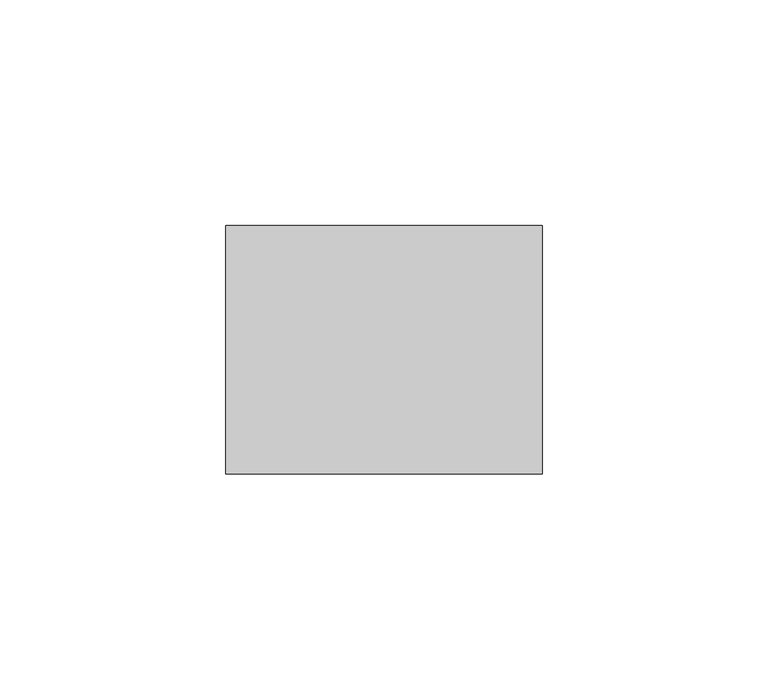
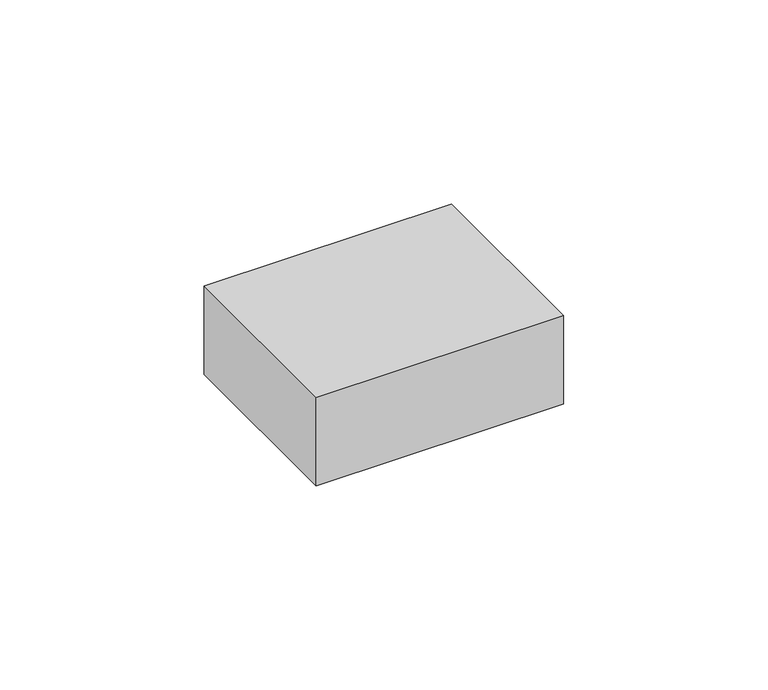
"""IFC4 building model written with IfcOpenShell, lengths in millimetres: proxy geometry, MK-TA24-MEFE-007-WD."""

import ifcopenshell
import ifcopenshell.guid

model = None  # the IFC model being written
_history = None  # IfcOwnerHistory: only IFC2X3 demands one
_inside = {}  # id of a spatial element -> (the spatial element, [elements in it])
_under = {}  # id of a project, library or spatial element -> (it, [spatial elements below it])
_declared = {}  # id of a project -> (the project, [libraries it declares])
_typed = {}  # id of a type object -> (the type object, [elements of that type])
_made_of = {}  # id of a material, layer set ... -> (it, [elements and type objects made of it])


def new_model(schema):
    """Start an empty IFC model of exactly this schema.

    Asked for "IFC4X3", IfcOpenShell would pick the latest addendum, in which some entities
    have other attributes; the version numbers below select the first issue.
    IFC2X3 requires an IfcOwnerHistory on every rooted entity: one is made here for all.
    """
    global model, _history
    if schema == "IFC4X3":
        model = ifcopenshell.file(schema_version=(4, 3, 0, 0))
    else:
        model = ifcopenshell.file(schema=schema)
    _inside.clear()
    _under.clear()
    _declared.clear()
    _typed.clear()
    _made_of.clear()
    _history = None
    if model.schema == "IFC2X3":
        org = make("IfcOrganization", Name="unknown")
        user = make(
            "IfcPersonAndOrganization",
            ThePerson=make("IfcPerson", FamilyName="unknown"),
            TheOrganization=org,
        )
        app = make(
            "IfcApplication",
            ApplicationDeveloper=org,
            Version="unknown",
            ApplicationFullName="unknown",
            ApplicationIdentifier="unknown",
        )
        _history = make(
            "IfcOwnerHistory",
            OwningUser=user,
            OwningApplication=app,
            ChangeAction="ADDED",
            CreationDate=0,
        )
    return model


def make(cls, **values):
    """One entity of the class cls with the attributes given. An attribute that is None is left unset."""
    return model.create_entity(
        cls, **{name: value for name, value in values.items() if value is not None}
    )


def rooted(cls, **values):
    """An entity with a GlobalId (a new one), such as an element, a storey or a relation."""
    return make(cls, GlobalId=ifcopenshell.guid.new(), OwnerHistory=_history, **values)


def si_unit(unit_type, name, prefix=None):
    """IfcSIUnit, for example si_unit("LENGTHUNIT", "METRE", prefix="MILLI")."""
    return make("IfcSIUnit", UnitType=unit_type, Prefix=prefix, Name=name)


def assignment(units):
    """IfcUnitAssignment: the units of a project."""
    return None if units is None else make("IfcUnitAssignment", Units=units)


def point(xyz):
    """IfcCartesianPoint."""
    return None if xyz is None else make("IfcCartesianPoint", Coordinates=xyz)


def direction(xyz):
    """IfcDirection."""
    return None if xyz is None else make("IfcDirection", DirectionRatios=xyz)


def frame(location, z_axis=None, x_axis=None):
    """IfcAxis2Placement3D, a coordinate frame: its origin and axes. An axis left out is left unset."""
    return make(
        "IfcAxis2Placement3D",
        Location=point(location),
        Axis=direction(z_axis),
        RefDirection=direction(x_axis),
    )


def origin():
    """The frame at (0, 0, 0) with its axes left unset."""
    return frame((0.0, 0.0, 0.0))


def place(relative_to, where):
    """IfcLocalPlacement: puts the frame where relative to a parent placement (None: the world)."""
    return make(
        "IfcLocalPlacement", PlacementRelTo=relative_to, RelativePlacement=where
    )


def context(
    kind, dimensions, precision=None, world=None, true_north=None, identifier=None
):
    """IfcGeometricRepresentationContext, for example the 3D "Model" context."""
    return make(
        "IfcGeometricRepresentationContext",
        ContextIdentifier=identifier,
        ContextType=kind,
        CoordinateSpaceDimension=dimensions,
        Precision=precision,
        WorldCoordinateSystem=world,
        TrueNorth=true_north,
    )


def project(units=None, contexts=None):
    """IfcProject with its units and contexts."""
    return rooted(
        "IfcProject",
        Name="project",
        RepresentationContexts=contexts,
        UnitsInContext=assignment(units),
    )


def spatial(cls, under=None, at=None, **own):
    """A site, building, storey or space (cls), placed at a placement, below another one or the project."""
    s = rooted(cls, ObjectPlacement=at, **own)
    if under is not None:
        _under.setdefault(under.id(), (under, []))[1].append(s)
    return s


def polyline(points):
    """IfcPolyline through the points."""
    return make("IfcPolyline", Points=[point(p) for p in points])


def outline(outer, holes=None, kind="AREA"):
    """IfcArbitraryClosedProfileDef: a profile drawn as a closed curve; with holes, ...WithVoids."""
    if holes is None:
        return make("IfcArbitraryClosedProfileDef", ProfileType=kind, OuterCurve=outer)
    return make(
        "IfcArbitraryProfileDefWithVoids",
        ProfileType=kind,
        OuterCurve=outer,
        InnerCurves=holes,
    )


def extrude(swept, where, along, depth):
    """IfcExtrudedAreaSolid: the profile swept, set in the frame where, extruded along a direction by depth."""
    return make(
        "IfcExtrudedAreaSolid",
        SweptArea=swept,
        Position=where,
        ExtrudedDirection=direction(along),
        Depth=depth,
    )


def shape(context_of_items, identifier, shape_type, items):
    """IfcShapeRepresentation: the items that make up one representation, for example the "Body"."""
    return make(
        "IfcShapeRepresentation",
        ContextOfItems=context_of_items,
        RepresentationIdentifier=identifier,
        RepresentationType=shape_type,
        Items=items,
    )


def source(mapping_origin, context_of_items, identifier, shape_type, items):
    """IfcRepresentationMap: a shape defined once, which mapped items show again and again."""
    return make(
        "IfcRepresentationMap",
        MappingOrigin=mapping_origin,
        MappedRepresentation=shape(context_of_items, identifier, shape_type, items),
    )


def transform(
    local_origin,
    x_axis=None,
    y_axis=None,
    z_axis=None,
    scale=None,
    scale2=None,
    scale3=None,
    uniform=True,
):
    """IfcCartesianTransformationOperator3D, or its non-uniform kind. x_axis, y_axis, z_axis: its Axis1, 2, 3."""
    if uniform:
        return make(
            "IfcCartesianTransformationOperator3D",
            Axis1=direction(x_axis),
            Axis2=direction(y_axis),
            LocalOrigin=point(local_origin),
            Scale=scale,
            Axis3=direction(z_axis),
        )
    return make(
        "IfcCartesianTransformationOperator3DnonUniform",
        Axis1=direction(x_axis),
        Axis2=direction(y_axis),
        LocalOrigin=point(local_origin),
        Scale=scale,
        Axis3=direction(z_axis),
        Scale2=scale2,
        Scale3=scale3,
    )


def mapped(mapping_source, mapping_target):
    """IfcMappedItem: shows the shape of a source again, moved by a transform."""
    return make(
        "IfcMappedItem", MappingSource=mapping_source, MappingTarget=mapping_target
    )


def made_of(thing, what):
    """Note that an element or type object is made of a material, layer set ...; save() writes the relation."""
    if what is not None:
        _made_of.setdefault(what.id(), (what, []))[1].append(thing)
    return thing


def element(
    cls,
    number,
    at=None,
    inside=None,
    cuts=None,
    type_object=None,
    material=None,
    context=None,
    identifier="Body",
    shape_type=None,
    held_by="IfcProductDefinitionShape",
    body=None,
    shapes=None,
    **own,
):
    """One element of the class cls, such as IfcWall. Its Tag is "e" and its number.

    at: its placement. inside: the storey or other place that contains it. cuts: it is an
    opening in that element (IfcRelVoidsElement). A single representation is given by context,
    identifier, shape_type and body (its items); several are given by shapes. held_by: the class
    of the entity that holds the representations. save() writes the other relations.
    """
    e = rooted(cls, Tag="e%d" % number, ObjectPlacement=at, **own)
    if body is not None:
        shapes = [shape(context, identifier, shape_type, body)]
    if shapes is not None:
        e.Representation = make(held_by, Representations=shapes)
    if inside is not None:
        _inside.setdefault(inside.id(), (inside, []))[1].append(e)
    if cuts is not None:
        rooted(
            "IfcRelVoidsElement", RelatingBuildingElement=cuts, RelatedOpeningElement=e
        )
    if type_object is not None:
        _typed.setdefault(type_object.id(), (type_object, []))[1].append(e)
    return made_of(e, material)


def aggregate(whole, parts):
    """IfcRelAggregates: a whole, such as a stair, and the parts it consists of."""
    return rooted("IfcRelAggregates", RelatingObject=whole, RelatedObjects=parts)


def save(model, path):
    """Write the relations noted so far, then the file.

    IfcRelAggregates (storeys below a building ...), IfcRelContainedInSpatialStructure (elements
    in a storey), IfcRelDefinesByType, IfcRelAssociatesMaterial and IfcRelDeclares: one each for
    every whole, place, type object, material and project.
    """
    for whole, parts in _under.values():
        aggregate(whole, parts)
    for where, things in _inside.values():
        rooted(
            "IfcRelContainedInSpatialStructure",
            RelatedElements=things,
            RelatingStructure=where,
        )
    for kind, things in _typed.values():
        rooted("IfcRelDefinesByType", RelatedObjects=things, RelatingType=kind)
    for what, things in _made_of.values():
        rooted("IfcRelAssociatesMaterial", RelatedObjects=things, RelatingMaterial=what)
    for by, libraries in _declared.values():
        rooted("IfcRelDeclares", RelatingContext=by, RelatedDefinitions=libraries)
    model.write(path)


def generic_models_8838b61d(model_context):
    return source(origin(), model_context, "Body", "SweptSolid", [
        extrude(outline(polyline([(35.0, -27.5), (-35.0, -27.5), (-35.0, 27.5), (35.0, 27.5), (35.0, -27.5)])), frame((0.0, 0.0, -13.25), z_axis=(0.0, 0.0, 1.0), x_axis=(1.0, 0.0, 0.0)), (0.0, 0.0, 1.0), 26.5),
    ])


if __name__ == "__main__":
    model = new_model("IFC4")
    model_context = context("Model", 3, world=origin())
    ifc_project = project(units=[si_unit("LENGTHUNIT", "METRE", prefix="MILLI")], contexts=[model_context])
    site = spatial("IfcSite", under=ifc_project)
    building = spatial("IfcBuilding", under=site)
    placement = place(None, origin())
    generic_models_shape = generic_models_8838b61d(model_context)
    element("IfcBuildingElementProxy", 1, Name="MK-TA24-MEFE-007-WD", ObjectType="MK-TA24-MEFE-007-WD", at=placement, inside=building, context=model_context, shape_type="MappedRepresentation", body=[
        mapped(generic_models_shape, transform((0.0, 0.0, 0.0), x_axis=(1.0, 0.0, 0.0), y_axis=(0.0, 1.0, 0.0), z_axis=(0.0, 0.0, 1.0))),
    ])
    save(model, "model.ifc")
